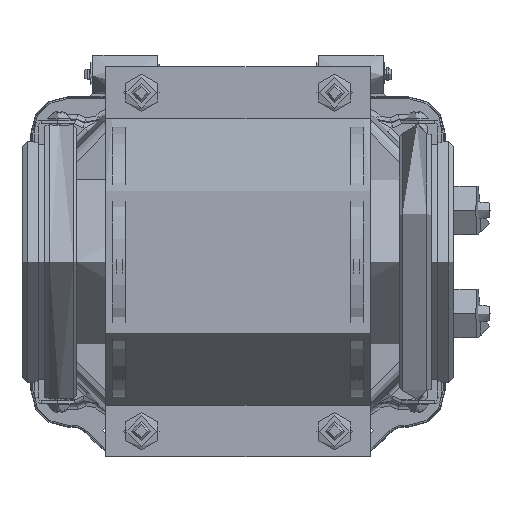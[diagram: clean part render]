
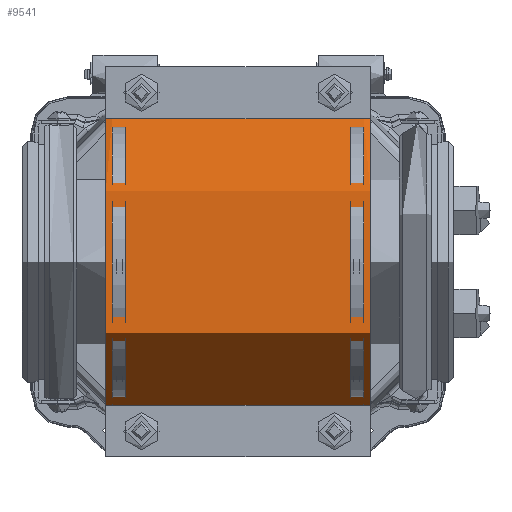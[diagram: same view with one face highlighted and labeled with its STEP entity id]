
A CAD part, front view. The second image highlights one B-rep face of the part: STEP entity #9541.
In plain terms, the highlighted cylindrical face has radius 44.5 mm (diameter 89 mm), a partial arc.
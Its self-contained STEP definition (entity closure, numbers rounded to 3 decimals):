
#9541=ADVANCED_FACE('',(#27474),#27476,.T.);
#27474=FACE_BOUND('',#27475,.T.);
#27475=EDGE_LOOP('',(#37592,#37593,#37594,#37595,#37596,#37597,#37598,#37599,#37600,
#37601));
#27476=CYLINDRICAL_SURFACE('',#27477,44.5);
#27477=AXIS2_PLACEMENT_3D('',#27478,#27479,#27480);
#27478=CARTESIAN_POINT('',(41.,0.,-0.));
#27479=DIRECTION('',(-1.,0.,0.));
#27480=DIRECTION('',(0.,0.,-1.));
#37592=ORIENTED_EDGE('',*,*,#42531,.F.);
#37593=ORIENTED_EDGE('',*,*,#42433,.F.);
#37594=ORIENTED_EDGE('',*,*,#42521,.T.);
#37595=ORIENTED_EDGE('',*,*,#42532,.F.);
#37596=ORIENTED_EDGE('',*,*,#42472,.T.);
#37597=ORIENTED_EDGE('',*,*,#42508,.F.);
#37598=ORIENTED_EDGE('',*,*,#42482,.T.);
#37599=ORIENTED_EDGE('',*,*,#42533,.T.);
#37600=ORIENTED_EDGE('',*,*,#42512,.T.);
#37601=ORIENTED_EDGE('',*,*,#42414,.F.);
#42414=EDGE_CURVE('',#46721,#46723,#46724,.T.);
#42433=EDGE_CURVE('',#46750,#46752,#46753,.F.);
#42472=EDGE_CURVE('',#46814,#46682,#46815,.F.);
#42482=EDGE_CURVE('',#46674,#46830,#46832,.F.);
#42508=EDGE_CURVE('',#46674,#46682,#46872,.T.);
#42512=EDGE_CURVE('',#46878,#46723,#46879,.T.);
#42521=EDGE_CURVE('',#46750,#46888,#46890,.T.);
#42531=EDGE_CURVE('',#46752,#46721,#46906,.F.);
#42532=EDGE_CURVE('',#46814,#46888,#46907,.T.);
#42533=EDGE_CURVE('',#46830,#46878,#46908,.T.);
#46674=VERTEX_POINT('',#60267);
#46682=VERTEX_POINT('',#60285);
#46721=VERTEX_POINT('',#60382);
#46723=VERTEX_POINT('',#60386);
#46724=CIRCLE('',#60387,44.5);
#46750=VERTEX_POINT('',#60450);
#46752=VERTEX_POINT('',#60454);
#46753=CIRCLE('',#60455,44.5);
#46814=VERTEX_POINT('',#62098);
#46815=LINE('',#62099,#62100);
#46830=VERTEX_POINT('',#62132);
#46832=LINE('',#62136,#62137);
#46872=LINE('',#62310,#62311);
#46878=VERTEX_POINT('',#62326);
#46879=LINE('',#62327,#62328);
#46888=VERTEX_POINT('',#62352);
#46890=LINE('',#62356,#62357);
#46906=LINE('',#62392,#62393);
#46907=CIRCLE('',#62395,44.5);
#46908=CIRCLE('',#62399,44.5);
#60267=CARTESIAN_POINT('',(39.,-1.,-44.489));
#60285=CARTESIAN_POINT('',(-39.,-1.,-44.489));
#60382=CARTESIAN_POINT('',(39.,-2.,44.455));
#60386=CARTESIAN_POINT('',(39.,-1.,44.489));
#60387=AXIS2_PLACEMENT_3D('',#60388,#60389,#60390);
#60388=CARTESIAN_POINT('',(39.,0.,0.));
#60389=DIRECTION('',(-1.,0.,0.));
#60390=DIRECTION('',(0.,-0.045,0.999));
#60450=CARTESIAN_POINT('',(-39.,-1.,44.489));
#60454=CARTESIAN_POINT('',(-39.,-2.,44.455));
#60455=AXIS2_PLACEMENT_3D('',#60456,#60457,#60458);
#60456=CARTESIAN_POINT('',(-39.,0.,0.));
#60457=DIRECTION('',(-1.,0.,0.));
#60458=DIRECTION('',(0.,-0.045,0.999));
#62098=CARTESIAN_POINT('',(-41.,-1.,-44.489));
#62099=CARTESIAN_POINT('',(-39.,-1.,-44.489));
#62100=VECTOR('',#62101,1.);
#62101=DIRECTION('',(-1.,0.,0.));
#62132=CARTESIAN_POINT('',(41.,-1.,-44.489));
#62136=CARTESIAN_POINT('',(41.,-1.,-44.489));
#62137=VECTOR('',#62138,1.);
#62138=DIRECTION('',(-1.,0.,0.));
#62310=CARTESIAN_POINT('',(39.,-1.,-44.489));
#62311=VECTOR('',#62312,1.);
#62312=DIRECTION('',(-1.,0.,0.));
#62326=CARTESIAN_POINT('',(41.,-1.,44.489));
#62327=CARTESIAN_POINT('',(41.,-1.,44.489));
#62328=VECTOR('',#62329,1.);
#62329=DIRECTION('',(-1.,0.,0.));
#62352=CARTESIAN_POINT('',(-41.,-1.,44.489));
#62356=CARTESIAN_POINT('',(-39.,-1.,44.489));
#62357=VECTOR('',#62358,1.);
#62358=DIRECTION('',(-1.,0.,0.));
#62392=CARTESIAN_POINT('',(39.,-2.,44.455));
#62393=VECTOR('',#62394,1.);
#62394=DIRECTION('',(-1.,0.,0.));
#62395=AXIS2_PLACEMENT_3D('',#62396,#62397,#62398);
#62396=CARTESIAN_POINT('',(-41.,0.,0.));
#62397=DIRECTION('',(-1.,0.,0.));
#62398=DIRECTION('',(0.,-0.022,-1.));
#62399=AXIS2_PLACEMENT_3D('',#62400,#62401,#62402);
#62400=CARTESIAN_POINT('',(41.,0.,0.));
#62401=DIRECTION('',(-1.,0.,0.));
#62402=DIRECTION('',(0.,-0.022,-1.));
